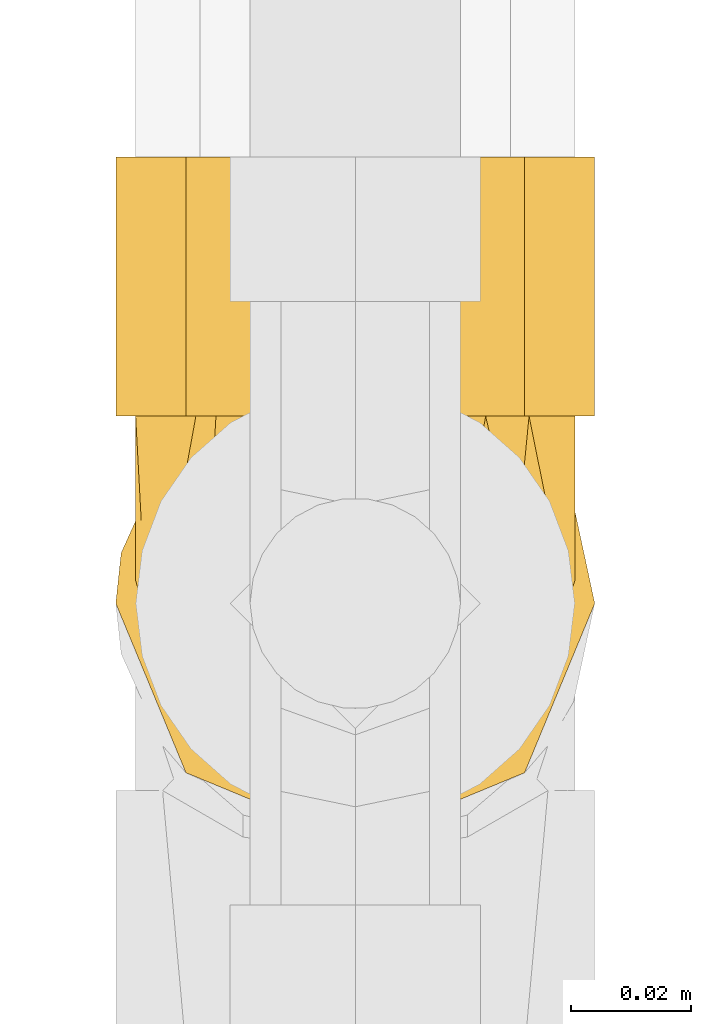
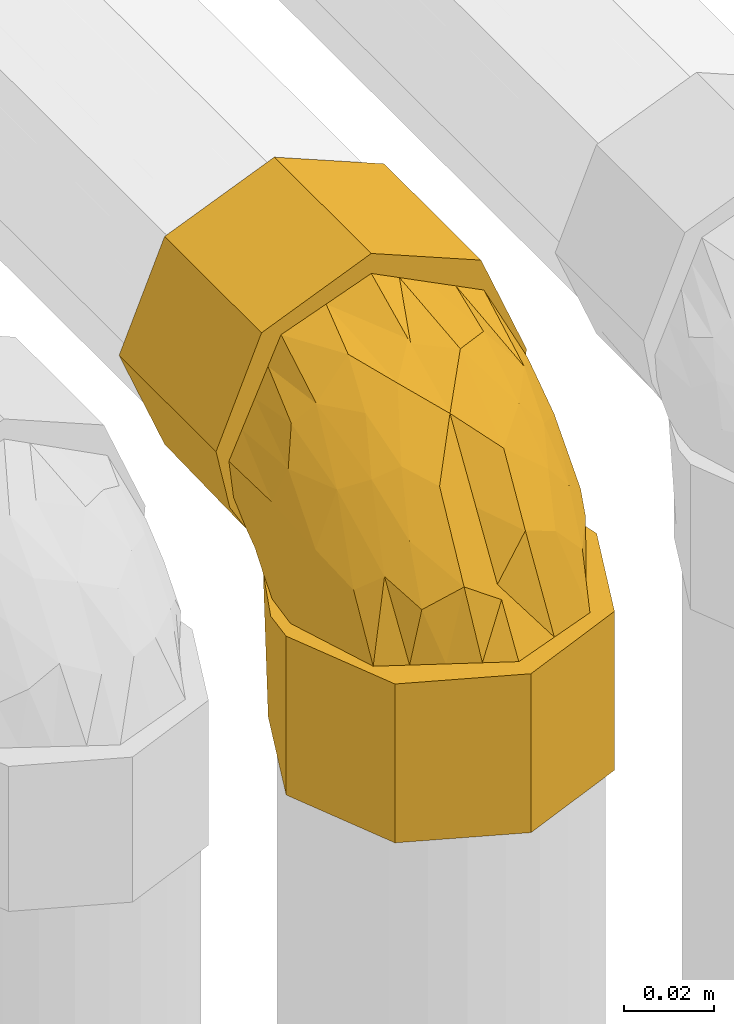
# One storey, part 243 of 652: 1 covering.
"""IFC2X3 building model written with IfcOpenShell, lengths in millimetres."""

from ifc_helpers import new_model, entity, si_unit, converted_unit, direction, frame, origin, place, context, subcontext, project, spatial, faceted_brep, material, type_object, element, save


model = new_model("IFC2X3")

# Units and contexts
model_context = context("Model", 3, precision=0.01, world=frame((0.0, 0.0, 308426.39999999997)), true_north=direction((6.123233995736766e-17, 1.0)))
plan_context = context("Plan", 3, precision=0.01, world=frame((0.0, 0.0, 308426.39999999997)), true_north=direction((6.123233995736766e-17, 1.0)))
body_context = subcontext(model_context, "Body", "Model", "MODEL_VIEW")
ifc_project = project(units=[si_unit("LENGTHUNIT", "METRE", prefix="MILLI"), si_unit("AREAUNIT", "SQUARE_METRE"), si_unit("VOLUMEUNIT", "CUBIC_METRE"), converted_unit("PLANEANGLEUNIT", "DEGREE", entity("IfcPlaneAngleMeasure", 0.017453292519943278), si_unit("PLANEANGLEUNIT", "RADIAN"), dimensions=[0, 0, 0, 0, 0, 0, 0])], contexts=[model_context, plan_context])

# Site, building, storey
site_placement = place(None, origin())
site = spatial("IfcSite", under=ifc_project, at=site_placement, Name="Default", CompositionType="ELEMENT")
building_placement = place(site_placement, origin())
building = spatial("IfcBuilding", under=site, at=building_placement, CompositionType="ELEMENT")
storey_placement = place(building_placement, frame((0.0, 0.0, 1730.6999999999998)))
storey = spatial("IfcBuildingStorey", under=building, at=storey_placement, Name="EG_Produktion_FFB", CompositionType="ELEMENT", Elevation=1730.6999999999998)

# Covering
ifc_material = material(Name="Dämmung - Armaflex-Schlauch")
covering_type = type_object("IfcCoveringType", Name="Rohrdämmung außen:Armaflex-Schlauch", PredefinedType="INSULATION")
covering_placement = place(storey_placement, frame((77638.64672776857, 51596.675081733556, 3525.9157499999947)))
element("IfcCovering", 1, at=covering_placement, inside=storey, type_object=covering_type, material=ifc_material, Name="Rohrdämmung außen:Armaflex-Schlauch", ObjectType="Rohrdämmung außen:Armaflex-Schlauch", PredefinedType="INSULATION", context=body_context, shape_type="Brep", body=[
    faceted_brep([(76.62300673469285, 55.2934460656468, 43.00575000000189), (77.08951820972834, 51.3056693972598, 43.00575000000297), (77.81577223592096, 45.09759303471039, 43.00575000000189), (74.37467999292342, 37.46172977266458, 43.00575000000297), (70.93358774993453, 29.82586651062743, 43.00575000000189), (67.7065704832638, 22.665040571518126, 43.00575000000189), (64.47955321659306, 15.504214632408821, 43.00575000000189), (52.91641272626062, 11.253230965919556, 43.00575000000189), (41.35327223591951, 7.002247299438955, 43.00575000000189), (34.139683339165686, 10.651622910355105, 43.00575000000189), (26.926094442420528, 14.300998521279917, 43.00575000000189), (19.712505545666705, 17.95037413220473, 43.00575000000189), (12.498916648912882, 21.599749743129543, 43.00575000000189), (10.12212716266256, 28.940491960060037, 43.00575000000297), (7.5064496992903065, 37.01904249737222, 43.00575000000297), (4.890772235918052, 45.09759303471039, 43.00575000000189), (5.617026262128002, 51.30566939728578, 43.00575000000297), (6.083537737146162, 55.2934460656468, 43.00575000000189), (7.721836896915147, 60.12524249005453, 43.00575000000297), (9.36013605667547, 64.95703891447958, 43.00575000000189), (5.923100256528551, 57.339612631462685, 43.00575000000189), (2.486064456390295, 49.72218634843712, 43.00575000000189), (1.5952722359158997, 41.35327223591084, 43.00575000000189), (4.907228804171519, 33.357501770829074, 43.00575000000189), (7.417696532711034, 27.296696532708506, 43.00575000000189), (10.328908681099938, 20.268408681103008, 43.00575000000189), (13.240120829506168, 13.240120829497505, 43.00575000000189), (20.268408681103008, 10.328908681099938, 43.00575000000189), (27.29669653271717, 7.417696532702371, 43.00575000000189), (34.32498438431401, 4.506484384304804, 43.00575000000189), (41.35327223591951, 1.5952722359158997, 43.00575000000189), (49.349042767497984, 4.907228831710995, 43.00575000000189), (55.409847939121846, 7.417696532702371, 43.00575000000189), (62.43813579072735, 10.328908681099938, 43.00575000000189), (69.46642364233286, 13.240120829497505, 43.00575000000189), (72.37763579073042, 20.268408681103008, 43.00575000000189), (75.28884793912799, 27.296696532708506, 43.00575000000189), (77.79931619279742, 33.35750303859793, 43.00575000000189), (81.11127223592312, 41.35327223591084, 43.00575000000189), (79.35209785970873, 49.529246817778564, 43.00575000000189), (77.59292348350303, 57.705221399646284, 43.00575000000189), (73.34640841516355, 64.95703891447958, 43.00575000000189), (74.98470757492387, 60.12524249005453, 43.00575000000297), (4.50648438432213, 48.38156008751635, 0.0), (7.417696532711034, 55.409847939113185, 0.0), (10.3289086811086, 62.43813579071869, 0.0), (13.240120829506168, 69.46642364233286, 0.0), (20.268408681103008, 72.37763579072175, 0.0), (27.29669653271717, 75.28884793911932, 0.0), (33.35750154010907, 77.79931557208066, 0.0), (41.35327223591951, 81.11127223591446, 0.0), (49.34904130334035, 77.79931624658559, 0.0), (55.409847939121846, 75.28884793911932, 0.0), (62.43813579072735, 72.37763579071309, 0.0), (69.46642364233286, 69.46642364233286, 0.0), (72.37763579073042, 62.43813579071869, 0.0), (75.28884793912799, 55.409847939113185, 0.0), (78.20006008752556, 48.38156008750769, 0.0), (81.11127223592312, 41.35327223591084, 0.0), (78.20006008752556, 34.324984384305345, 0.0), (75.28884793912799, 27.296696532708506, 0.0), (72.37763579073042, 20.268408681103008, 0.0), (69.46642364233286, 13.240120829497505, 0.0), (62.43813579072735, 10.328908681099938, 0.0), (55.409847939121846, 7.417696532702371, 0.0), (48.38156008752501, 4.506484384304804, 0.0), (41.35327223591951, 1.5952722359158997, 0.0), (34.32498438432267, 4.506484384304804, 0.0), (27.29669653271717, 7.417696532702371, 0.0), (20.26840868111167, 10.328908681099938, 0.0), (13.240120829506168, 13.240120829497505, 0.0), (8.219185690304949, 25.36173053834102, 0.0), (4.907228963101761, 33.3575013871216, 0.0), (1.5952722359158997, 41.35327223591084, 0.0), (16.057183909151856, 70.72483298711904, 39.143139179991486), (41.35327223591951, 81.11127223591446, 32.887345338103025), (32.05375199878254, 78.80194964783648, 34.08393684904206), (22.754231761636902, 76.4926270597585, 35.28052835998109), (27.40399188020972, 77.64728835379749, 34.68223260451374), (66.64936056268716, 70.72483298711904, 39.143139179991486), (50.65279247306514, 78.80194964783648, 34.08393684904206), (59.952312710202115, 76.4926270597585, 35.28052835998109), (45.66173672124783, 80.04136388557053, 33.44172576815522), (81.11127223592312, 72.43177223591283, 74.08425000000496), (77.7993156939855, 72.43177223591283, 82.08002040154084), (75.28884793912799, 72.43177223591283, 88.14082570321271), (72.37763579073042, 72.43177223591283, 95.16911355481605), (69.46642364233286, 72.43177223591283, 102.19740140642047), (62.43813579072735, 72.43177223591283, 105.10861355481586), (55.409847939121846, 72.43177223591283, 108.01982570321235), (49.34904137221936, 72.43177223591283, 110.53029398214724), (41.35327223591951, 72.43177223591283, 113.84225000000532), (33.3575020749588, 72.43177223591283, 110.53029355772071), (27.29669653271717, 72.43177223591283, 108.01982570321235), (20.268408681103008, 72.43177223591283, 105.10861355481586), (13.240120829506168, 72.43177223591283, 102.19740140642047), (10.328908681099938, 72.43177223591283, 95.16911355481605), (7.417696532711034, 72.43177223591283, 88.14082570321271), (4.50648438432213, 72.43177223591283, 81.1125378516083), (1.5952722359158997, 72.43177223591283, 74.08425000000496), (3.3544632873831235, 72.43177223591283, 65.90823846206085), (5.113654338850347, 72.43177223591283, 57.73222692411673), (9.36013605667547, 72.43177223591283, 50.48048332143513), (7.721836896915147, 72.43177223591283, 55.312279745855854), (6.083537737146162, 72.43177223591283, 60.1440761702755), (5.617026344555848, 72.43177223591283, 64.13185213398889), (5.253899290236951, 72.43177223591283, 67.23589066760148), (4.890772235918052, 72.43177223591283, 70.33992920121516), (8.224826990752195, 72.43177223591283, 77.73827380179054), (11.558881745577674, 72.43177223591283, 85.13661840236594), (14.892936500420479, 72.43177223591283, 92.53496300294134), (18.22699125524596, 72.43177223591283, 99.93330760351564), (24.00856150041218, 72.43177223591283, 102.05879943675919), (29.790131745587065, 72.4317722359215, 104.18429127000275), (41.35327223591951, 72.43177223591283, 108.43527493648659), (48.56686113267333, 72.43177223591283, 104.78589932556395), (55.78045002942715, 72.43177223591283, 101.13652371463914), (62.99403892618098, 72.43177223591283, 97.4871481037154), (70.2076278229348, 72.43177223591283, 93.83777249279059), (72.10966392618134, 72.43177223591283, 87.96331166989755), (74.01170002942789, 72.43177223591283, 82.08885084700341), (77.81577223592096, 72.43177223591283, 70.33992920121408), (77.45264518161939, 72.43177223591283, 67.23589066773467), (77.08951812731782, 72.43177223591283, 64.13185213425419), (76.62300673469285, 72.43177223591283, 60.1440761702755), (74.98470757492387, 72.43177223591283, 55.312279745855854), (73.34640841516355, 72.43177223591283, 50.48048332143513), (76.78343970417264, 72.43177223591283, 58.097888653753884), (80.22047099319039, 72.43177223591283, 65.71529398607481), (4.50648438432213, 115.43752223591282, 81.1125378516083), (7.417696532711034, 115.43752223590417, 88.14082570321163), (10.3289086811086, 115.43752223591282, 95.16911355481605), (13.240120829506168, 115.43752223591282, 102.19740140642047), (25.361730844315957, 115.43752223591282, 107.21833667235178), (33.3575015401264, 115.43752223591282, 110.5302933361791), (41.35327223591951, 115.43752223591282, 113.84225000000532), (48.38156008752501, 115.43752223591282, 110.93103785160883), (55.409847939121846, 115.43752223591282, 108.01982570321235), (62.43813579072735, 115.43752223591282, 105.10861355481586), (69.46642364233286, 115.43752223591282, 102.19740140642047), (72.37763579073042, 115.43752223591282, 95.16911355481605), (75.28884793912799, 115.43752223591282, 88.14082570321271), (78.20006008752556, 115.43752223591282, 81.1125378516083), (81.11127223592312, 115.43752223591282, 74.08425000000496), (78.20006008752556, 115.43752223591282, 67.05596214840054), (75.28884793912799, 115.43752223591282, 60.0276742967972), (72.37763579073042, 115.43752223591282, 52.99938644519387), (69.46642364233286, 115.43752223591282, 45.97109859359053), (62.43813579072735, 115.43752223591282, 43.059886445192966), (55.409847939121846, 115.43752223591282, 40.148674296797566), (49.34904309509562, 115.43752223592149, 37.63820673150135), (41.35327223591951, 115.43752223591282, 34.32625000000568), (33.357503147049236, 115.43752223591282, 37.63820599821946), (27.296696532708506, 115.43752223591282, 40.148674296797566), (20.268408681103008, 115.43752223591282, 43.059886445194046), (13.240120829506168, 115.43752223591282, 45.97109859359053), (10.328908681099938, 115.43752223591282, 52.99938644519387), (7.417696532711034, 115.43752223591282, 60.0276742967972), (4.907228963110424, 115.43752223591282, 66.08847915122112), (1.5952722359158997, 115.43752223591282, 74.08425000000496), (41.35327223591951, 82.55017689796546, 34.32625000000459), (32.05375199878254, 81.35358538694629, 36.63557258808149), (22.754231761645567, 80.1569938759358, 38.94489517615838), (32.736343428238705, 81.44141605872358, 36.4660666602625), (16.057183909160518, 76.29438305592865, 44.71268924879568), (66.6493605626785, 76.29438305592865, 44.71268924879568), (50.65279247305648, 81.35358538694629, 36.63557258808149), (59.95231271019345, 80.1569938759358, 38.94489517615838), (49.9702010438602, 81.44141605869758, 36.46606666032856), (45.66173663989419, 81.99579647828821, 35.3961583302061), (12.120840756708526, 57.27953829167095, 87.24563107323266), (11.864597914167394, 29.196562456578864, 59.25537915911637), (8.378054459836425, 39.9967764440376, 64.7856822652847), (4.890772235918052, 51.66581364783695, 54.44461824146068), (5.704430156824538, 44.42764397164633, 57.536839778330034), (5.818095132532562, 55.10574679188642, 69.54060567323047), (14.280504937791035, 40.74800020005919, 78.61273076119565), (17.28056825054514, 24.869749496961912, 63.633000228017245), (41.35327223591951, 37.51558616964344, 91.69909945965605), (33.2832979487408, 46.80229075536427, 97.09379966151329), (32.936990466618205, 27.559756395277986, 80.92903244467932), (41.35327223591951, 14.630582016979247, 55.179087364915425), (31.923106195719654, 14.91845121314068, 61.71355754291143), (20.52086951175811, 36.22638004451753, 81.91063946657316), (4.890772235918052, 70.04816151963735, 68.5153934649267), (4.89077223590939, 67.66455080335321, 66.69085772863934), (4.890772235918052, 62.89732937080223, 63.04178625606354), (4.890772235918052, 57.28157150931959, 58.74320224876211), (17.18561506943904, 54.94023827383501, 92.24225345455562), (23.49848008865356, 24.562664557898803, 71.24210235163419), (22.48243663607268, 17.335133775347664, 57.40923450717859), (24.51166214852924, 45.83903622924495, 92.66510975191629), (26.852776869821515, 33.94124595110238, 84.60868936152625), (41.35327223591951, 54.973679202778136, 100.0671871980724), (41.35327223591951, 56.13067021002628, 100.62176107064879), (41.35327223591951, 22.258916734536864, 67.35242472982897), (41.35327223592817, 25.996342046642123, 73.31662804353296), (41.35327223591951, 29.887251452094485, 79.52576209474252), (26.95482375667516, 57.75457775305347, 100.49812847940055), (8.90939071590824, 53.08436589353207, 78.60346314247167), (41.35327223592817, 16.499294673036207, 58.16118902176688), (4.890772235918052, 48.11331321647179, 48.25776996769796), (5.540058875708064, 55.88980313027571, 48.61142237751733), (6.751916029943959, 61.14799943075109, 47.90470472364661), (41.35327223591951, 81.8038063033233, 33.63371593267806), (6.670824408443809, 63.97836606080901, 51.45915668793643), (11.210836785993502, 70.52863846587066, 44.90888347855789), (6.751916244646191, 67.53281820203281, 54.28952252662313), (5.555021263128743, 66.92088050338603, 59.51870107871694), (77.16648559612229, 55.889803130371, 48.611422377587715), (77.81577223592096, 48.11331321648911, 48.25776996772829), (71.49570746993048, 70.52863882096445, 44.90888338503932), (76.03571971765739, 63.978366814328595, 51.459155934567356), (75.95462843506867, 61.147999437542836, 47.904704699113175), (77.8157722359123, 57.281571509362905, 58.74320224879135), (75.95462822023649, 67.53281822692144, 54.289522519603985), (77.15152320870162, 66.9208805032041, 59.51870107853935), (77.81577223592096, 67.66455080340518, 66.69085772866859), (77.81577223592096, 51.66581364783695, 54.44461824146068), (77.81577223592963, 70.04816151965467, 68.51539346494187), (77.8157722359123, 62.89732937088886, 63.041786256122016), (74.80598737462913, 37.54867793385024, 59.6118626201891), (71.5622524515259, 29.753616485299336, 58.147927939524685), (75.79919171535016, 58.23539538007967, 76.41301603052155), (50.8847120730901, 30.21968406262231, 83.37405497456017), (65.94296495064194, 38.437885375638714, 79.87091005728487), (73.58946657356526, 47.150672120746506, 74.44381850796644), (68.10768824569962, 50.851200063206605, 86.90253298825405), (76.81449307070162, 50.71304963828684, 66.0986310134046), (76.81985109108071, 42.39813250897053, 55.98858201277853), (67.36791849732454, 29.78207227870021, 67.81026209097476), (60.18508487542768, 39.604136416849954, 86.64625364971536), (51.08904624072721, 49.78456672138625, 98.35278997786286), (60.01109950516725, 54.9861016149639, 96.79734628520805), (73.08709853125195, 58.13081411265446, 83.33506495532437), (58.13792656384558, 19.784818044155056, 64.80279365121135), (61.63866824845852, 29.10701456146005, 74.76137203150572), (65.97235995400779, 21.418901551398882, 55.995243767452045), (49.62375736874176, 18.40551201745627, 68.64794002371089)], [[[0, 1, 2, 3, 4, 5, 6, 7, 8, 9, 10, 11, 12, 13, 14, 15, 16, 17, 18, 19, 20, 21, 22, 23, 24, 25, 26, 27, 28, 29, 30, 31, 32, 33, 34, 35, 36, 37, 38, 39, 40, 41, 42]], [[43, 44, 45, 46, 47, 48, 49, 50, 51, 52, 53, 54, 55, 56, 57, 58, 59, 60, 61, 62, 63, 64, 65, 66, 67, 68, 69, 70, 71, 72, 73]], [[47, 46, 74]], [[75, 50, 49]], [[76, 75, 49]], [[48, 77, 78, 76]], [[47, 74, 77]], [[44, 20, 45]], [[43, 21, 44]], [[46, 19, 74]], [[77, 48, 47]], [[44, 21, 20]], [[43, 22, 21]], [[48, 76, 49]], [[43, 73, 22]], [[45, 20, 19]], [[19, 46, 45]], [[23, 22, 73, 72, 71, 70, 26, 25, 24]], [[26, 70, 69, 68, 67, 66, 30, 29, 28, 27]], [[38, 37, 36, 35, 34, 62, 61, 60, 59, 58]], [[30, 66, 65, 64, 63, 62, 34, 33, 32, 31]], [[56, 40, 39]], [[53, 79, 54]], [[39, 57, 56]], [[41, 55, 54]], [[40, 55, 41]], [[80, 52, 51]], [[52, 80, 81]], [[58, 57, 38]], [[51, 75, 82, 80]], [[38, 57, 39]], [[79, 53, 81]], [[55, 40, 56]], [[51, 50, 75]], [[53, 52, 81]], [[79, 41, 54]], [[83, 84, 85, 86, 87, 88, 89, 90, 91, 92, 93, 94, 95, 96, 97, 98, 99, 100, 101, 102, 103, 104, 105, 106, 107, 108, 109, 110, 111, 112, 113, 114, 115, 116, 117, 118, 119, 120, 121, 122, 123, 124, 125, 126, 127, 128]], [[129, 130, 131, 132, 133, 134, 135, 136, 137, 138, 139, 140, 141, 142, 143, 144, 145, 146, 147, 148, 149, 150, 151, 152, 153, 154, 155, 156, 157, 158, 159]], [[135, 134, 133, 132, 95, 94, 93, 92, 91]], [[95, 132, 131, 130, 129, 159, 99, 98, 97, 96]], [[159, 158, 157, 100]], [[101, 156, 102]], [[99, 159, 100]], [[101, 100, 157]], [[152, 151, 160]], [[102, 156, 155]], [[153, 161, 162]], [[161, 153, 152]], [[152, 160, 163, 161]], [[154, 164, 155]], [[164, 154, 162]], [[156, 101, 157]], [[154, 153, 162]], [[164, 102, 155]], [[148, 147, 165]], [[149, 166, 150]], [[166, 149, 167]], [[160, 151, 150]], [[148, 165, 167]], [[145, 127, 146]], [[144, 128, 145]], [[147, 126, 165]], [[167, 149, 148]], [[145, 128, 127]], [[144, 83, 128]], [[150, 166, 168, 169, 160]], [[144, 143, 83]], [[146, 127, 126]], [[126, 147, 146]], [[91, 90, 89, 88, 87, 139, 138, 137, 136, 135]], [[141, 140, 139, 87, 86, 85, 84, 83, 143, 142]], [[109, 170, 110]], [[13, 171, 172]], [[14, 13, 172]], [[173, 174, 175]], [[176, 171, 177]], [[15, 14, 174]], [[178, 179, 180]], [[9, 181, 182]], [[172, 175, 174]], [[13, 12, 171]], [[12, 11, 177]], [[176, 177, 183]], [[175, 107, 184, 185, 186, 187, 173]], [[188, 170, 176]], [[176, 172, 171]], [[189, 190, 182]], [[11, 10, 190]], [[177, 11, 190]], [[170, 188, 110]], [[191, 183, 192]], [[179, 178, 193, 194]], [[182, 190, 10]], [[182, 195, 180]], [[177, 190, 189]], [[182, 10, 9]], [[180, 195, 196, 197, 178]], [[177, 189, 183]], [[177, 171, 12]], [[113, 179, 194]], [[189, 182, 180]], [[112, 111, 198, 113]], [[198, 111, 188]], [[194, 114, 113]], [[179, 191, 192]], [[199, 175, 172]], [[199, 108, 175]], [[172, 176, 199]], [[188, 111, 110]], [[199, 170, 109]], [[183, 188, 176]], [[108, 199, 109]], [[188, 191, 198]], [[108, 107, 175]], [[176, 170, 199]], [[192, 189, 180]], [[188, 183, 191]], [[189, 192, 183]], [[179, 192, 180]], [[181, 9, 8]], [[182, 181, 200, 195]], [[191, 179, 198]], [[179, 113, 198]], [[174, 173, 201, 15]], [[172, 174, 14]], [[173, 202, 201]], [[173, 187, 203]], [[18, 203, 19]], [[201, 17, 16, 15]], [[204, 76, 163]], [[74, 164, 162, 77]], [[163, 76, 78, 77, 162, 161]], [[205, 102, 206]], [[206, 164, 74]], [[184, 107, 106, 105, 104, 185]], [[205, 207, 102]], [[186, 185, 208, 187]], [[204, 75, 76]], [[163, 160, 204]], [[205, 206, 19]], [[164, 206, 102]], [[203, 205, 19]], [[19, 206, 74]], [[201, 202, 17]], [[17, 202, 18]], [[203, 202, 173]], [[18, 202, 203]], [[102, 207, 103]], [[103, 208, 104]], [[207, 205, 187]], [[208, 103, 207]], [[208, 185, 104]], [[187, 208, 207]], [[203, 187, 205]], [[204, 160, 169]], [[209, 210, 0]], [[169, 168, 166, 167, 81, 80, 82]], [[41, 211, 212]], [[1, 0, 210, 2]], [[213, 212, 214]], [[204, 169, 82]], [[79, 165, 211]], [[126, 125, 215]], [[212, 211, 126]], [[204, 82, 75]], [[167, 165, 79, 81]], [[216, 124, 217]], [[218, 209, 213]], [[122, 121, 219, 217, 124, 123]], [[41, 79, 211]], [[211, 165, 126]], [[209, 0, 42]], [[125, 124, 216]], [[126, 215, 212]], [[125, 216, 215]], [[220, 214, 216, 217]], [[213, 42, 41]], [[212, 213, 41]], [[210, 209, 218]], [[214, 212, 215]], [[209, 42, 213]], [[215, 216, 214]], [[218, 213, 214]], [[4, 221, 222]], [[223, 121, 120]], [[224, 178, 197, 196]], [[225, 226, 227]], [[228, 226, 221]], [[229, 218, 228]], [[222, 226, 230]], [[231, 232, 224]], [[3, 229, 221]], [[233, 232, 231]], [[234, 223, 120]], [[229, 2, 210, 218]], [[224, 235, 236]], [[4, 3, 221]], [[228, 218, 214, 220, 217, 219, 121]], [[237, 222, 230]], [[6, 235, 7]], [[235, 6, 237]], [[238, 200, 7]], [[228, 223, 226]], [[224, 238, 235]], [[234, 226, 223]], [[227, 117, 233]], [[193, 232, 115]], [[224, 232, 178]], [[115, 114, 194, 193]], [[235, 237, 236]], [[238, 224, 196]], [[226, 222, 221]], [[222, 237, 5]], [[5, 237, 6]], [[5, 4, 222]], [[237, 230, 236]], [[7, 200, 181, 8]], [[7, 235, 238]], [[238, 196, 195, 200]], [[227, 118, 117]], [[193, 178, 232]], [[231, 236, 225]], [[233, 117, 116]], [[232, 233, 116]], [[227, 233, 231]], [[229, 3, 2]], [[228, 221, 229]], [[121, 223, 228]], [[119, 118, 234, 120]], [[234, 118, 227]], [[227, 226, 234]], [[232, 116, 115]], [[225, 236, 230]], [[224, 236, 231]], [[226, 225, 230]], [[231, 225, 227]]]),
])

save(model, "model.ifc")
